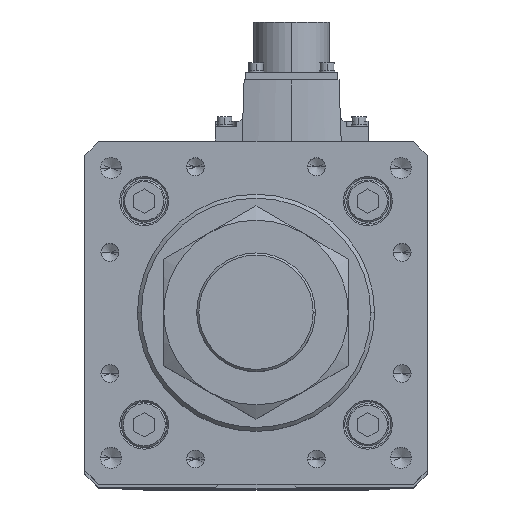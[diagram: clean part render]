
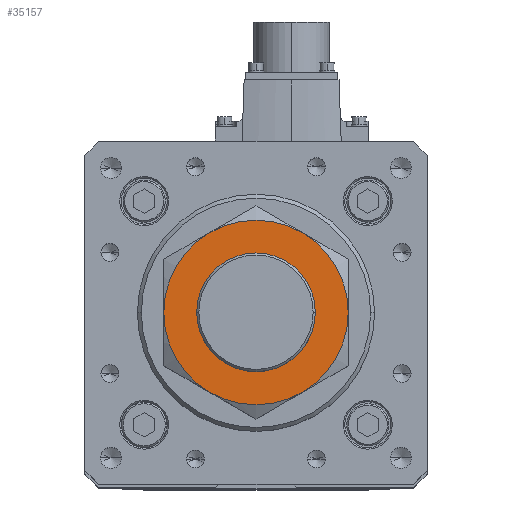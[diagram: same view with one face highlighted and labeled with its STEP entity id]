
A CAD part, top view. The second image highlights one B-rep face of the part: STEP entity #35157.
In plain terms, the highlighted planar face has unit normal (0, 0, 1).
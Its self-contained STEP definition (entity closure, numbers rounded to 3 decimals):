
#455 = EDGE_CURVE ( 'NONE', #6651, #13227, #25924, .T. ) ;
#589 = CARTESIAN_POINT ( 'NONE',  ( 0., 0., 27. ) ) ;
#855 = DIRECTION ( 'NONE',  ( 1., 0., 0. ) ) ;
#1184 = ORIENTED_EDGE ( 'NONE', *, *, #15204, .F. ) ;
#2439 = PLANE ( 'NONE',  #6066 ) ;
#3373 = EDGE_CURVE ( 'NONE', #29903, #30241, #24763, .T. ) ;
#3490 = CIRCLE ( 'NONE', #10560, 35. ) ;
#3910 = ORIENTED_EDGE ( 'NONE', *, *, #22079, .F. ) ;
#4901 = DIRECTION ( 'NONE',  ( 1., 0., 0. ) ) ;
#4953 = AXIS2_PLACEMENT_3D ( 'NONE', #25593, #14229, #7915 ) ;
#5144 = CARTESIAN_POINT ( 'NONE',  ( 0., 0., 27. ) ) ;
#5219 = DIRECTION ( 'NONE',  ( 0., 0., -1. ) ) ;
#5936 = CARTESIAN_POINT ( 'NONE',  ( -35., 0., 27. ) ) ;
#6066 = AXIS2_PLACEMENT_3D ( 'NONE', #13897, #37517, #4901 ) ;
#6467 = CARTESIAN_POINT ( 'NONE',  ( 0., 0., 27. ) ) ;
#6651 = VERTEX_POINT ( 'NONE', #35967 ) ;
#6679 = CIRCLE ( 'NONE', #21216, 35. ) ;
#6822 = ORIENTED_EDGE ( 'NONE', *, *, #37567, .F. ) ;
#7456 = CARTESIAN_POINT ( 'NONE',  ( -17.5, -30.311, 27. ) ) ;
#7811 = ORIENTED_EDGE ( 'NONE', *, *, #455, .F. ) ;
#7915 = DIRECTION ( 'NONE',  ( -1., 0., 0. ) ) ;
#8221 = VERTEX_POINT ( 'NONE', #5936 ) ;
#8931 = DIRECTION ( 'NONE',  ( 0., 0., -1. ) ) ;
#8963 = AXIS2_PLACEMENT_3D ( 'NONE', #20755, #32352, #35446 ) ;
#10044 = FACE_OUTER_BOUND ( 'NONE', #10697, .T. ) ;
#10222 = CARTESIAN_POINT ( 'NONE',  ( 0., 0., 27. ) ) ;
#10560 = AXIS2_PLACEMENT_3D ( 'NONE', #13725, #5219, #34989 ) ;
#10697 = EDGE_LOOP ( 'NONE', ( #24770, #26597, #3910, #6822, #12909, #20689 ) ) ;
#12624 = VERTEX_POINT ( 'NONE', #7456 ) ;
#12837 = AXIS2_PLACEMENT_3D ( 'NONE', #589, #27550, #855 ) ;
#12909 = ORIENTED_EDGE ( 'NONE', *, *, #32493, .F. ) ;
#13227 = VERTEX_POINT ( 'NONE', #35036 ) ;
#13503 = EDGE_LOOP ( 'NONE', ( #1184, #7811 ) ) ;
#13725 = CARTESIAN_POINT ( 'NONE',  ( 0., 0., 27. ) ) ;
#13897 = CARTESIAN_POINT ( 'NONE',  ( 0., 0., 27. ) ) ;
#14229 = DIRECTION ( 'NONE',  ( 0., 0., -1. ) ) ;
#14300 = CARTESIAN_POINT ( 'NONE',  ( 17.5, 30.311, 27. ) ) ;
#14305 = CARTESIAN_POINT ( 'NONE',  ( 17.5, -30.311, 27. ) ) ;
#15204 = EDGE_CURVE ( 'NONE', #13227, #6651, #36427, .T. ) ;
#15429 = CIRCLE ( 'NONE', #34836, 35. ) ;
#19140 = DIRECTION ( 'NONE',  ( -1., 0., 0. ) ) ;
#19730 = DIRECTION ( 'NONE',  ( -1., 0., 0. ) ) ;
#20689 = ORIENTED_EDGE ( 'NONE', *, *, #29780, .F. ) ;
#20755 = CARTESIAN_POINT ( 'NONE',  ( 0., 0., 27. ) ) ;
#21216 = AXIS2_PLACEMENT_3D ( 'NONE', #5144, #28883, #19730 ) ;
#22079 = EDGE_CURVE ( 'NONE', #23377, #25761, #6679, .T. ) ;
#22541 = FACE_BOUND ( 'NONE', #13503, .T. ) ;
#22666 = EDGE_CURVE ( 'NONE', #25761, #29903, #15429, .T. ) ;
#23377 = VERTEX_POINT ( 'NONE', #33382 ) ;
#24763 = CIRCLE ( 'NONE', #37960, 35. ) ;
#24770 = ORIENTED_EDGE ( 'NONE', *, *, #3373, .F. ) ;
#25593 = CARTESIAN_POINT ( 'NONE',  ( 0., 0., 27. ) ) ;
#25761 = VERTEX_POINT ( 'NONE', #14300 ) ;
#25924 = CIRCLE ( 'NONE', #8963, 22.5 ) ;
#26597 = ORIENTED_EDGE ( 'NONE', *, *, #22666, .F. ) ;
#27108 = DIRECTION ( 'NONE',  ( 0., 0., -1. ) ) ;
#27550 = DIRECTION ( 'NONE',  ( 0., 0., 1. ) ) ;
#27988 = AXIS2_PLACEMENT_3D ( 'NONE', #6467, #27108, #33027 ) ;
#28883 = DIRECTION ( 'NONE',  ( 0., 0., -1. ) ) ;
#29540 = DIRECTION ( 'NONE',  ( -1., 0., 0. ) ) ;
#29780 = EDGE_CURVE ( 'NONE', #30241, #12624, #34254, .T. ) ;
#29903 = VERTEX_POINT ( 'NONE', #32644 ) ;
#30241 = VERTEX_POINT ( 'NONE', #14305 ) ;
#32352 = DIRECTION ( 'NONE',  ( 0., 0., 1. ) ) ;
#32493 = EDGE_CURVE ( 'NONE', #12624, #8221, #35381, .T. ) ;
#32644 = CARTESIAN_POINT ( 'NONE',  ( 35., 0., 27. ) ) ;
#33027 = DIRECTION ( 'NONE',  ( -1., 0., 0. ) ) ;
#33382 = CARTESIAN_POINT ( 'NONE',  ( -17.5, 30.311, 27. ) ) ;
#34254 = CIRCLE ( 'NONE', #4953, 35. ) ;
#34836 = AXIS2_PLACEMENT_3D ( 'NONE', #38213, #8931, #29540 ) ;
#34989 = DIRECTION ( 'NONE',  ( -1., 0., 0. ) ) ;
#35036 = CARTESIAN_POINT ( 'NONE',  ( -22.5, 0., 27. ) ) ;
#35157 = ADVANCED_FACE ( 'NONE', ( #10044, #22541 ), #2439, .T. ) ;
#35381 = CIRCLE ( 'NONE', #27988, 35. ) ;
#35446 = DIRECTION ( 'NONE',  ( 1., 0., 0. ) ) ;
#35967 = CARTESIAN_POINT ( 'NONE',  ( 22.5, 0., 27. ) ) ;
#36427 = CIRCLE ( 'NONE', #12837, 22.5 ) ;
#36801 = DIRECTION ( 'NONE',  ( 0., 0., -1. ) ) ;
#37517 = DIRECTION ( 'NONE',  ( 0., 0., 1. ) ) ;
#37567 = EDGE_CURVE ( 'NONE', #8221, #23377, #3490, .T. ) ;
#37960 = AXIS2_PLACEMENT_3D ( 'NONE', #10222, #36801, #19140 ) ;
#38213 = CARTESIAN_POINT ( 'NONE',  ( 0., 0., 27. ) ) ;
